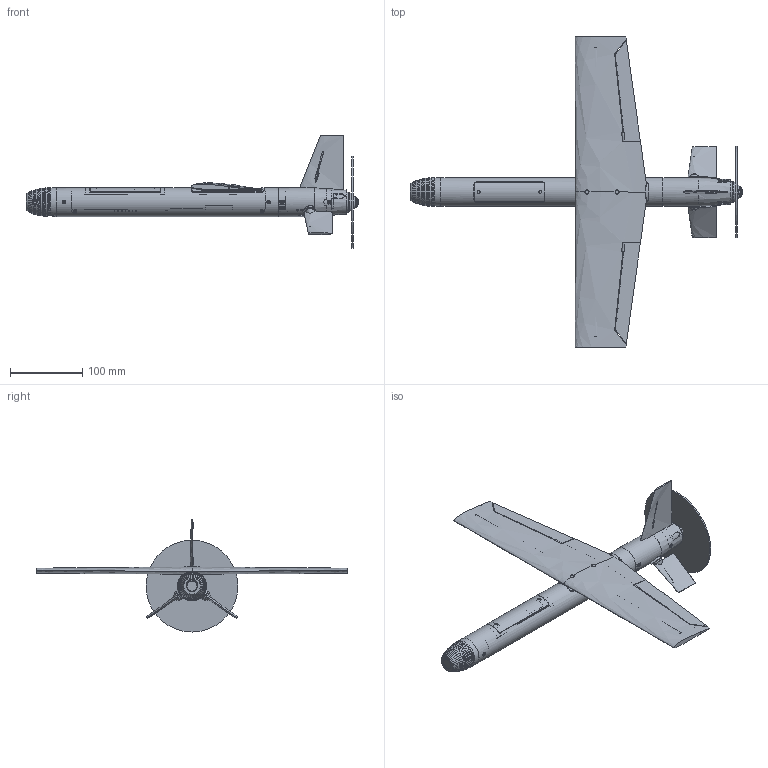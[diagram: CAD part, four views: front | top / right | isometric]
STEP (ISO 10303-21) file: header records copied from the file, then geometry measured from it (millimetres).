
FILE_DESCRIPTION(('SkyG Speed 90B - revision C6B-7 - 2026-10-08','C6B-assembly'),'2;1');
FILE_NAME('C6B-assembly_C6B-7','2026-10-08T18:09:17',('Author'),( 'Open CASCADE'),'Open CASCADE STEP processor 7.9','Open CASCADE 7.9' ,'Unknown');
FILE_SCHEMA(('AUTOMOTIVE_DESIGN { 1 0 10303 214 1 1 1 1 }'));
Length unit declared in the file: millimetre
Products named in the file (152): C4; N0M-nose-micro-camera; N0M-vtx-shelf; F3-tail-module; WR-wing-right; WL-wing-left; AR-aileron-right; AL-aileron-left; SR-stabilator-right; SL-stabilator-left; FN-fin; AHR-aileron-horn-right; AHL-aileron-horn-left; THR-tail-horn-right; THL-tail-horn-left; TR-equipment-tray; TC-tail-coupler; CW-countersunk-washer; NB1-wing-nut-bar-front; NB2-wing-nut-bar-rear; HL1-hatch-lip-front; HL2-hatch-lip-rear; HF-front-hatch; WF-wing-window-filler; HG-gps-carrier; M1-motor-plate; SP-spinner; ENV-scr_mplate_R; ENV-cw_13; ENV-scr_mplate_L; ENV-cw_14; ENV-motor; ENV-prop_disc; ENV-prop_hub_nut; ENV-battery; ENV-camera_micro19; ENV-cam_screws; ENV-O_o4_camera; ENV-O_o4_screws; ENV-O_o4_module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
Assembly tree (151 placements, depth 2):
  C4
    N0M-nose-micro-camera
    N0M-vtx-shelf
    F3-tail-module
    WR-wing-right
    WL-wing-left
    AR-aileron-right
    AL-aileron-left
    SR-stabilator-right
    SL-stabilator-left
    FN-fin
    AHR-aileron-horn-right
    AHL-aileron-horn-left
    THR-tail-horn-right
    THL-tail-horn-left
    TR-equipment-tray
    TC-tail-coupler
    CW-countersunk-washer
    NB1-wing-nut-bar-front
    NB2-wing-nut-bar-rear
    HL1-hatch-lip-front
    HL2-hatch-lip-rear
    HF-front-hatch
    WF-wing-window-filler
    HG-gps-carrier
    M1-motor-plate
    SP-spinner
    ENV-scr_mplate_R
    ENV-cw_13
    ENV-scr_mplate_L
    ENV-cw_14
    ENV-motor
    ENV-prop_disc
    ENV-prop_hub_nut
    ENV-battery
    ENV-camera_micro19
    ENV-cam_screws
    ENV-O_o4_camera
    ENV-O_o4_screws
    ENV-O_o4_module
    ENV-vtx
    ENV-gnss
    ENV-flight_controller
    ENV-ail_servo_arm
    ENV-ail_rod_R
    ENV-ail_link_R
    ENV-ail_rod_L
    ENV-ail_link_L
    ENV-ail_spine_R
    ENV-ail_spine_L
    ENV-receiver
    ENV-ant_elrs
    ENV-ant_vtx
    ENV-O_ant_video
    ENV-aileron_servo
    ENV-tail_servo_L
    ENV-tail_servo_R
    ENV-esc
    ENV-tail_servo_arm_R
    ENV-tail_link_R
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Bounding box: 459.19 x 430 x 155.1 mm (x, y, z)
Volume: 475957.7 mm3; surface area: 345971.1 mm2
Topology: 188 solids, 190 shells, 2642 faces, 6730 edges, 4456 vertices
Faces by surface type: plane 1701, cylinder 541, bspline 217, cone 143, torus 15, sphere 14, revolution 11
Full cylindrical faces by diameter (mm): 0.98 x6, 1.107 x11, 1.2 x22, 1.25 x8, 1.5 x2, 1.6 x34, 1.9 x1, 2 x32, 2.1 x2, 2.2 x20, 2.5 x2, 2.6 x6, 2.842 x6, 3 x13, 3.05 x2, 3.2 x4, 3.8 x2, 3.9 x3, 3.94 x3, 4 x4, 4.9 x14, 5 x12, 5.2 x3, 5.5 x4, 5.6 x3, 6 x3, 9 x1, 9.2 x1, 12.7 x1, 13 x2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
Entity records: 420535 total; most frequent: CARTESIAN_POINT 291786, DIRECTION 20306, ORIENTED_EDGE 13424, PCURVE 13424, DEFINITIONAL_REPRESENTATION 13424, LINE 9170, VECTOR 9170, EDGE_CURVE 6716
